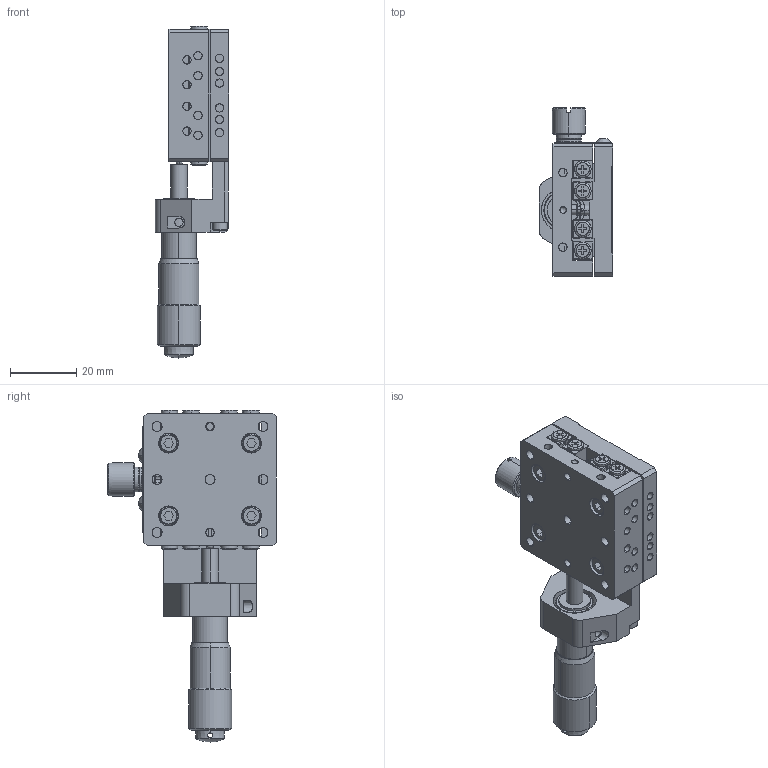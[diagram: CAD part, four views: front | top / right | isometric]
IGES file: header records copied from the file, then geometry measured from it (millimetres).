
Start section: SolidWorks IGES file using analytic representation for surfaces
Global section: file name: E:\0莉こ芞祧(2019)\07PHL\40\IGS\PHL-441CR.IGS,   ; native system: SolidWorks 2015; preprocessor: SolidWorks 2015; author: Administrator; date: 190128.104518; units: millimetre
Bounding box: 22.1 x 50.9 x 100.3 mm (x, y, z)
Surface area: 26529.4 mm2 (no closed solid volume)
Topology: 0 solids, 0 shells, 980 faces, 15045 edges, 15029 vertices
Faces by surface type: bspline 540, revolution 440
